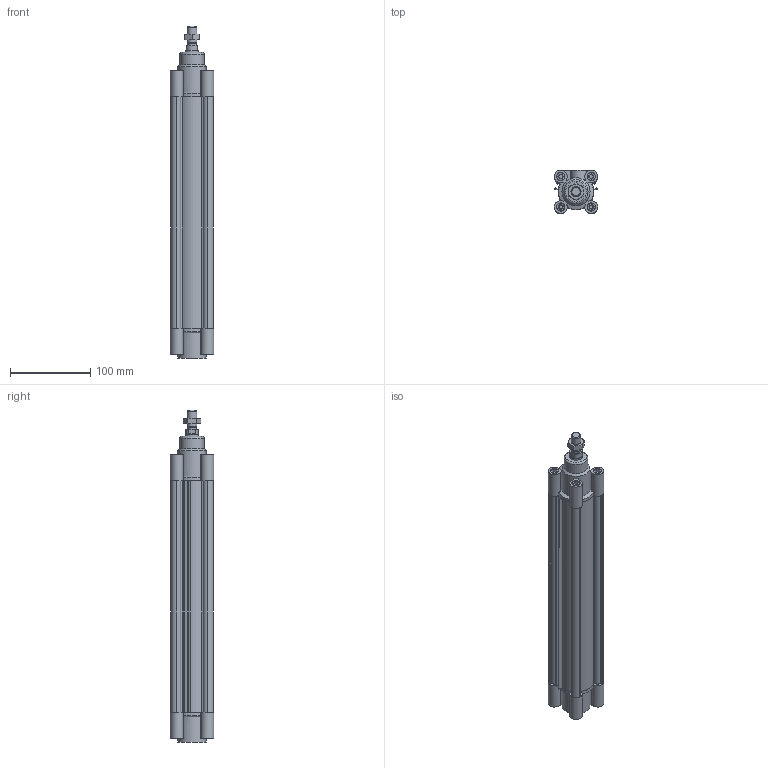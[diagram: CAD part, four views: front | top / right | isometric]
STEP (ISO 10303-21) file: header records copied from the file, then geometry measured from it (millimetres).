
FILE_DESCRIPTION((''),'2;1');
FILE_NAME('I:\Area Tecnica\Disegni\VARIE-3D\Componenti\ECOLIGHT\139#.##_0000_01\stp\139#_40_0250_01.iam.stp','2012-01-28T07:59:16',(''),(''),'Autodesk Inventor 2012','Autodesk Inventor 2012','');
FILE_SCHEMA(('AUTOMOTIVE_DESIGN { 1 0 10303 214 1 1 1 1 }'));
Length unit declared in the file: millimetre
Products named in the file (6): 139#_40_0250_01; CPL040_004-250; CPL040-001-01; CPL040-002-01; CPL_40_0250; 1320_40_18F
Assembly tree (5 placements, depth 2):
  139#_40_0250_01
    CPL040_004-250
    CPL040-001-01
    CPL040-002-01
    CPL_40_0250
    1320_40_18F
Bounding box: 54 x 54 x 414 mm (x, y, z)
Volume: 440788.5 mm3; surface area: 215514.1 mm2
Topology: 5 solids, 5 shells, 316 faces, 788 edges, 522 vertices
Faces by surface type: plane 200, cylinder 91, cone 24, torus 1
Full cylindrical faces by diameter (mm): 5 x8, 5.5 x4, 8 x2, 10 x8, 10.5 x9, 10.8 x1, 11.6 x2, 12 x1, 15.5 x1, 16 x2, 30 x1, 35 x2, 40 x4
Entity records: 9416 total; most frequent: CARTESIAN_POINT 1761, DIRECTION 1538, ORIENTED_EDGE 1442, EDGE_CURVE 721, AXIS2_PLACEMENT_3D 544, VERTEX_POINT 507, VECTOR 450, LINE 450
